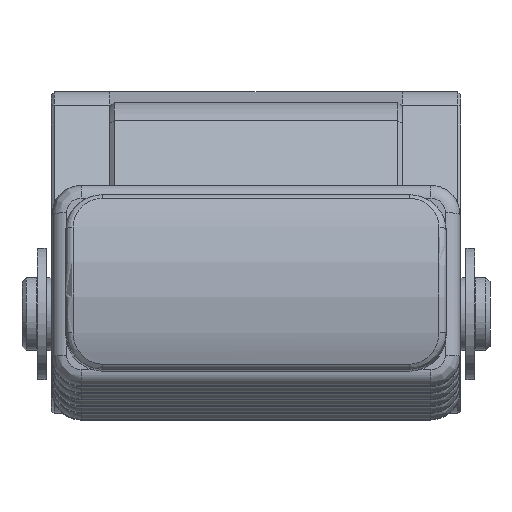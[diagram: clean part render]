
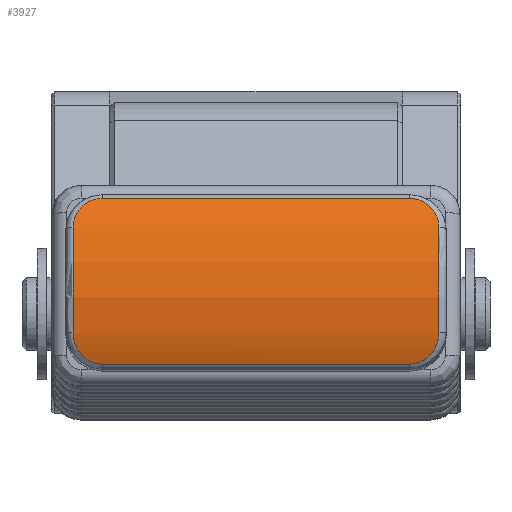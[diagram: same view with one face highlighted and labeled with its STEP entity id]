
A CAD part, top view. The second image highlights one B-rep face of the part: STEP entity #3927.
In plain terms, the highlighted cylindrical face has radius 14 mm (diameter 28 mm), a partial arc.
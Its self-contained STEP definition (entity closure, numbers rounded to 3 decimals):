
#366=B_SPLINE_CURVE_WITH_KNOTS('',3,(#15365,#15366,#15367,#15368,#15369,
#15370),.UNSPECIFIED.,.F.,.F.,(4,2,4),(0.,0.5,1.),.UNSPECIFIED.);
#367=B_SPLINE_CURVE_WITH_KNOTS('',3,(#15374,#15375,#15376,#15377,#15378,
#15379),.UNSPECIFIED.,.F.,.F.,(4,2,4),(0.,0.5,1.),.UNSPECIFIED.);
#368=B_SPLINE_CURVE_WITH_KNOTS('',3,(#15383,#15384,#15385,#15386,#15387,
#15388),.UNSPECIFIED.,.F.,.F.,(4,2,4),(0.,0.5,1.),.UNSPECIFIED.);
#369=B_SPLINE_CURVE_WITH_KNOTS('',3,(#15392,#15393,#15394,#15395,#15396,
#15397),.UNSPECIFIED.,.F.,.F.,(4,2,4),(0.,0.5,1.),.UNSPECIFIED.);
#3584=CYLINDRICAL_SURFACE('',#10782,14.);
#3927=ADVANCED_FACE('',(#4542),#3584,.T.);
#4542=FACE_OUTER_BOUND('',#4922,.T.);
#4922=EDGE_LOOP('',(#7675,#7676,#7677,#7678,#7679,#7680,#7681,#7682));
#5518=LINE('',#15372,#6021);
#5519=LINE('',#15390,#6022);
#6021=VECTOR('',#12556,1.);
#6022=VECTOR('',#12559,1.);
#7675=ORIENTED_EDGE('',*,*,#9581,.T.);
#7676=ORIENTED_EDGE('',*,*,#9582,.T.);
#7677=ORIENTED_EDGE('',*,*,#9583,.T.);
#7678=ORIENTED_EDGE('',*,*,#9584,.T.);
#7679=ORIENTED_EDGE('',*,*,#9585,.T.);
#7680=ORIENTED_EDGE('',*,*,#9586,.T.);
#7681=ORIENTED_EDGE('',*,*,#9587,.T.);
#7682=ORIENTED_EDGE('',*,*,#9588,.T.);
#8639=VERTEX_POINT('',#15363);
#8640=VERTEX_POINT('',#15364);
#8641=VERTEX_POINT('',#15371);
#8642=VERTEX_POINT('',#15373);
#8643=VERTEX_POINT('',#15380);
#8644=VERTEX_POINT('',#15382);
#8645=VERTEX_POINT('',#15389);
#8646=VERTEX_POINT('',#15391);
#9581=EDGE_CURVE('',#8639,#8640,#10102,.T.);
#9582=EDGE_CURVE('',#8640,#8641,#366,.T.);
#9583=EDGE_CURVE('',#8641,#8642,#5518,.T.);
#9584=EDGE_CURVE('',#8642,#8643,#367,.T.);
#9585=EDGE_CURVE('',#8643,#8644,#10103,.T.);
#9586=EDGE_CURVE('',#8644,#8645,#368,.T.);
#9587=EDGE_CURVE('',#8645,#8646,#5519,.T.);
#9588=EDGE_CURVE('',#8646,#8639,#369,.T.);
#10102=CIRCLE('',#10780,14.);
#10103=CIRCLE('',#10781,14.);
#10780=AXIS2_PLACEMENT_3D('',#15362,#12554,#12555);
#10781=AXIS2_PLACEMENT_3D('',#15381,#12557,#12558);
#10782=AXIS2_PLACEMENT_3D('',#15398,#12560,#12561);
#12554=DIRECTION('',(1.,0.,0.));
#12555=DIRECTION('',(0.,-0.994,0.113));
#12556=DIRECTION('',(1.,0.,0.));
#12557=DIRECTION('',(-1.,0.,0.));
#12558=DIRECTION('',(0.,-0.994,0.113));
#12559=DIRECTION('',(-1.,0.,0.));
#12560=DIRECTION('',(-1.,0.,0.));
#12561=DIRECTION('',(0.,0.994,-0.113));
#15362=CARTESIAN_POINT('',(-12.5,-3.455,65.643));
#15363=CARTESIAN_POINT('',(-12.5,1.678,78.668));
#15364=CARTESIAN_POINT('',(-12.5,-5.534,79.487));
#15365=CARTESIAN_POINT('',(-12.5,-5.534,79.487));
#15366=CARTESIAN_POINT('',(-12.5,-6.088,79.404));
#15367=CARTESIAN_POINT('',(-12.318,-6.595,79.293));
#15368=CARTESIAN_POINT('',(-11.565,-7.437,79.071));
#15369=CARTESIAN_POINT('',(-11.047,-7.678,78.991));
#15370=CARTESIAN_POINT('',(-10.5,-7.678,78.99));
#15371=CARTESIAN_POINT('',(-10.5,-7.678,78.99));
#15372=CARTESIAN_POINT('',(13.,-7.678,78.99));
#15373=CARTESIAN_POINT('',(10.5,-7.678,78.99));
#15374=CARTESIAN_POINT('',(10.5,-7.678,78.99));
#15375=CARTESIAN_POINT('',(11.042,-7.678,78.991));
#15376=CARTESIAN_POINT('',(11.568,-7.433,79.072));
#15377=CARTESIAN_POINT('',(12.314,-6.6,79.292));
#15378=CARTESIAN_POINT('',(12.5,-6.107,79.401));
#15379=CARTESIAN_POINT('',(12.5,-5.534,79.487));
#15380=CARTESIAN_POINT('',(12.5,-5.534,79.487));
#15381=CARTESIAN_POINT('',(12.5,-3.455,65.643));
#15382=CARTESIAN_POINT('',(12.5,1.678,78.668));
#15383=CARTESIAN_POINT('',(12.5,1.678,78.668));
#15384=CARTESIAN_POINT('',(12.5,2.199,78.463));
#15385=CARTESIAN_POINT('',(12.318,2.669,78.24));
#15386=CARTESIAN_POINT('',(11.565,3.439,77.836));
#15387=CARTESIAN_POINT('',(11.047,3.656,77.703));
#15388=CARTESIAN_POINT('',(10.5,3.656,77.702));
#15389=CARTESIAN_POINT('',(10.5,3.656,77.702));
#15390=CARTESIAN_POINT('',(13.,3.656,77.702));
#15391=CARTESIAN_POINT('',(-10.5,3.656,77.702));
#15392=CARTESIAN_POINT('',(-10.5,3.656,77.702));
#15393=CARTESIAN_POINT('',(-11.042,3.656,77.703));
#15394=CARTESIAN_POINT('',(-11.568,3.436,77.837));
#15395=CARTESIAN_POINT('',(-12.314,2.673,78.238));
#15396=CARTESIAN_POINT('',(-12.5,2.217,78.456));
#15397=CARTESIAN_POINT('',(-12.5,1.678,78.668));
#15398=CARTESIAN_POINT('',(13.,-3.455,65.643));
